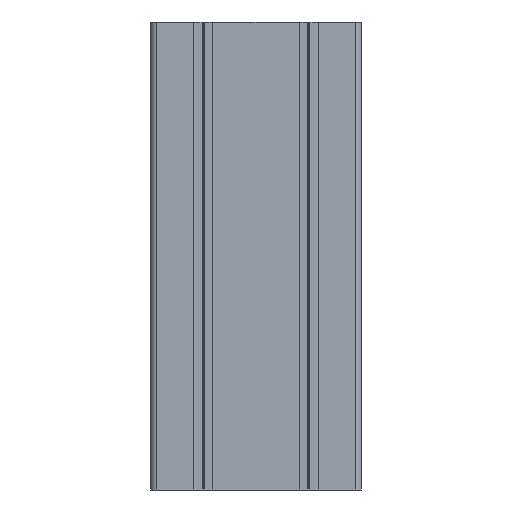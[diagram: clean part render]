
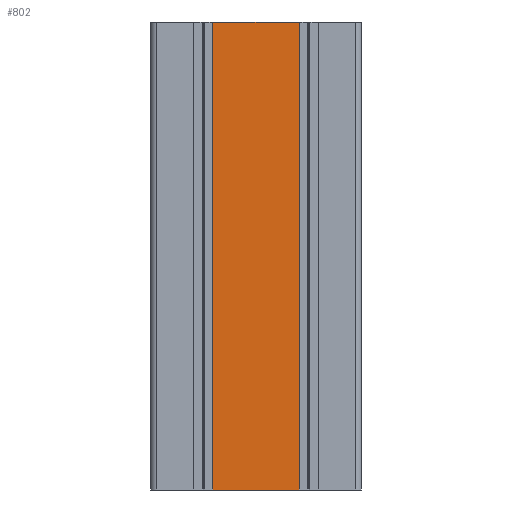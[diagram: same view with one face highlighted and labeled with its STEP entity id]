
A CAD part, left-side view. The second image highlights one B-rep face of the part: STEP entity #802.
In plain terms, the highlighted planar face has unit normal (-1, 0, 0).
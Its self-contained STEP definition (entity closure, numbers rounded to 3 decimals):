
#481 = EDGE_CURVE ( 'NONE', #655, #565, #1919, .T. ) ;
#565 = VERTEX_POINT ( 'NONE', #6465 ) ;
#655 = VERTEX_POINT ( 'NONE', #7507 ) ;
#775 = FACE_OUTER_BOUND ( 'NONE', #3715, .T. ) ;
#802 = ADVANCED_FACE ( 'NONE', ( #775 ), #3594, .F. ) ;
#1036 = DIRECTION ( 'NONE',  ( 0., 0., -1. ) ) ;
#1455 = CARTESIAN_POINT ( 'NONE',  ( -45., 18.4, 200. ) ) ;
#1698 = DIRECTION ( 'NONE',  ( 0., 0., -1. ) ) ;
#1919 = LINE ( 'NONE', #5898, #2098 ) ;
#1933 = DIRECTION ( 'NONE',  ( 0., -1., 0. ) ) ;
#2021 = CARTESIAN_POINT ( 'NONE',  ( -45., 18.4, 0. ) ) ;
#2098 = VECTOR ( 'NONE', #5921, 1000. ) ;
#2358 = VECTOR ( 'NONE', #1698, 1000. ) ;
#2390 = LINE ( 'NONE', #3257, #2358 ) ;
#2480 = LINE ( 'NONE', #1455, #2491 ) ;
#2491 = VECTOR ( 'NONE', #1036, 1000. ) ;
#2959 = EDGE_CURVE ( 'NONE', #655, #4977, #2480, .T. ) ;
#2973 = EDGE_CURVE ( 'NONE', #565, #4973, #2390, .T. ) ;
#3257 = CARTESIAN_POINT ( 'NONE',  ( -45., -18.4, 200. ) ) ;
#3594 = PLANE ( 'NONE',  #6024 ) ;
#3715 = EDGE_LOOP ( 'NONE', ( #8157, #8419, #8739, #8925 ) ) ;
#3729 = DIRECTION ( 'NONE',  ( 1., 0., 0. ) ) ;
#3781 = DIRECTION ( 'NONE',  ( 0., 1., 0. ) ) ;
#4149 = CARTESIAN_POINT ( 'NONE',  ( -45., 18.4, 200. ) ) ;
#4383 = CARTESIAN_POINT ( 'NONE',  ( -45., 18.4, 0. ) ) ;
#4540 = CARTESIAN_POINT ( 'NONE',  ( -45., -18.4, 0. ) ) ;
#4973 = VERTEX_POINT ( 'NONE', #4540 ) ;
#4977 = VERTEX_POINT ( 'NONE', #4383 ) ;
#5898 = CARTESIAN_POINT ( 'NONE',  ( -45., 18.4, 200. ) ) ;
#5921 = DIRECTION ( 'NONE',  ( 0., -1., 0. ) ) ;
#6024 = AXIS2_PLACEMENT_3D ( 'NONE', #4149, #3729, #3781 ) ;
#6465 = CARTESIAN_POINT ( 'NONE',  ( -45., -18.4, 200. ) ) ;
#6880 = VECTOR ( 'NONE', #1933, 1000. ) ;
#6920 = LINE ( 'NONE', #2021, #6880 ) ;
#7507 = CARTESIAN_POINT ( 'NONE',  ( -45., 18.4, 200. ) ) ;
#7655 = EDGE_CURVE ( 'NONE', #4977, #4973, #6920, .T. ) ;
#8157 = ORIENTED_EDGE ( 'NONE', *, *, #7655, .T. ) ;
#8419 = ORIENTED_EDGE ( 'NONE', *, *, #2973, .F. ) ;
#8739 = ORIENTED_EDGE ( 'NONE', *, *, #481, .F. ) ;
#8925 = ORIENTED_EDGE ( 'NONE', *, *, #2959, .T. ) ;
